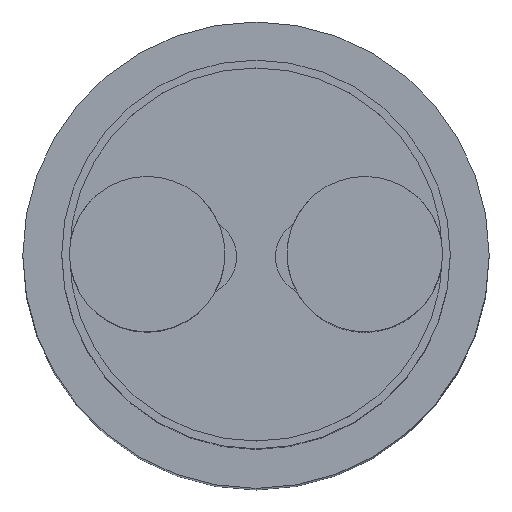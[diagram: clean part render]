
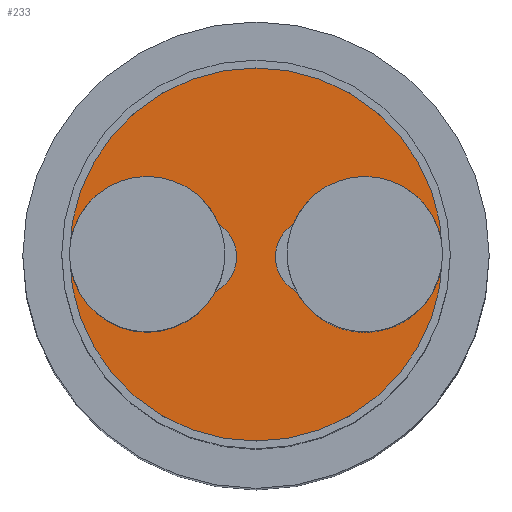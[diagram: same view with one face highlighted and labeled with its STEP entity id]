
A CAD part, top view. The second image highlights one B-rep face of the part: STEP entity #233.
In plain terms, the highlighted planar face has unit normal (0, 0, -1).
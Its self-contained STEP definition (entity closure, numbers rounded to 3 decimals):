
#17=FACE_BOUND('',#76,.T.);
#18=FACE_BOUND('',#77,.T.);
#57=FACE_OUTER_BOUND('',#75,.T.);
#75=EDGE_LOOP('',(#182));
#76=EDGE_LOOP('',(#183));
#77=EDGE_LOOP('',(#184));
#92=CIRCLE('',#282,0.5);
#93=CIRCLE('',#284,0.5);
#95=CIRCLE('',#288,2.5);
#108=VERTEX_POINT('',#411);
#109=VERTEX_POINT('',#415);
#111=VERTEX_POINT('',#422);
#132=EDGE_CURVE('',#108,#108,#92,.T.);
#134=EDGE_CURVE('',#109,#109,#93,.T.);
#136=EDGE_CURVE('',#111,#111,#95,.T.);
#182=ORIENTED_EDGE('',*,*,#136,.F.);
#183=ORIENTED_EDGE('',*,*,#134,.T.);
#184=ORIENTED_EDGE('',*,*,#132,.T.);
#202=PLANE('',#287);
#233=ADVANCED_FACE('',(#57,#17,#18),#202,.F.);
#282=AXIS2_PLACEMENT_3D('',#413,#347,#348);
#284=AXIS2_PLACEMENT_3D('',#417,#352,#353);
#287=AXIS2_PLACEMENT_3D('',#421,#358,#359);
#288=AXIS2_PLACEMENT_3D('',#423,#360,#361);
#347=DIRECTION('center_axis',(0.,0.,1.));
#348=DIRECTION('ref_axis',(1.,0.,0.));
#352=DIRECTION('center_axis',(0.,0.,1.));
#353=DIRECTION('ref_axis',(1.,0.,0.));
#358=DIRECTION('center_axis',(0.,0.,1.));
#359=DIRECTION('ref_axis',(1.,0.,0.));
#360=DIRECTION('center_axis',(0.,0.,1.));
#361=DIRECTION('ref_axis',(1.,0.,0.));
#411=CARTESIAN_POINT('',(-1.25,0.,-3.));
#413=CARTESIAN_POINT('Origin',(-0.75,0.,-3.));
#415=CARTESIAN_POINT('',(0.25,0.,-3.));
#417=CARTESIAN_POINT('Origin',(0.75,0.,-3.));
#421=CARTESIAN_POINT('Origin',(0.,0.,-3.));
#422=CARTESIAN_POINT('',(-2.5,0.,-3.));
#423=CARTESIAN_POINT('Origin',(0.,0.,-3.));
